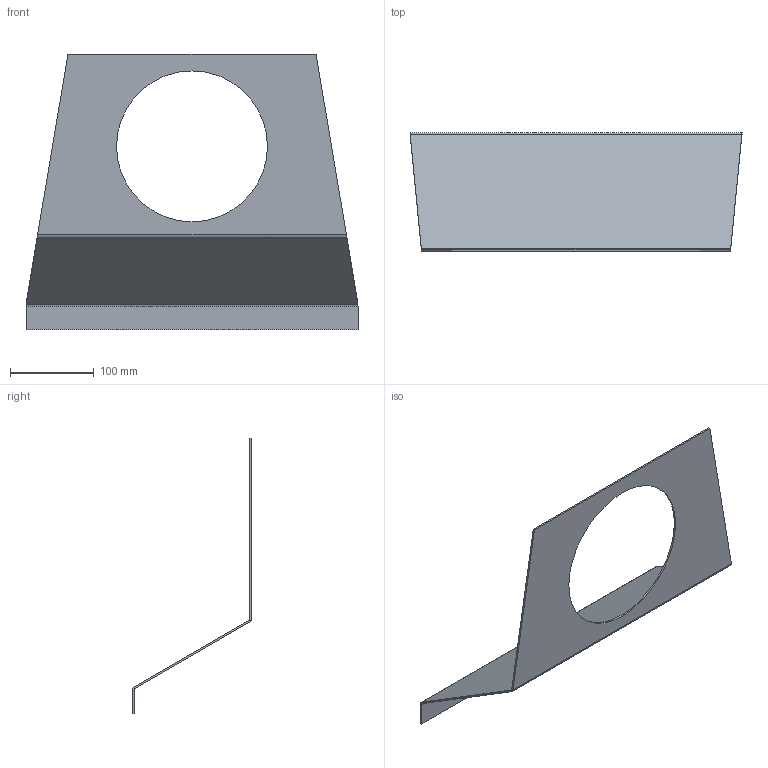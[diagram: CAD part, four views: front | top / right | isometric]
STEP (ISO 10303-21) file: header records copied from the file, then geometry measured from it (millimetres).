
FILE_DESCRIPTION (( 'STEP AP203' ), '1' );
FILE_NAME ('Fond de trémie Rep.4.STEP', '2014-03-15T16:20:58', ( '' ), ( '' ), 'SwSTEP 2.0', 'SolidWorks 2014', '' );
FILE_SCHEMA (( 'CONFIG_CONTROL_DESIGN' ));
Length unit declared in the file: millimetre
Products named in the file (1): Fond de trémie Rep.4
Bounding box: 396 x 142 x 328.85 mm (x, y, z)
Volume: 240867.5 mm3; surface area: 245032.1 mm2
Topology: 1 solids, 1 shells, 24 faces, 50 edges, 28 vertices
Faces by surface type: plane 14, cylinder 6, bspline 4
Entity records: 783 total; most frequent: CARTESIAN_POINT 235, ORIENTED_EDGE 100, DIRECTION 88, EDGE_CURVE 50, LINE 38, VECTOR 38, VERTEX_POINT 28, EDGE_LOOP 26
